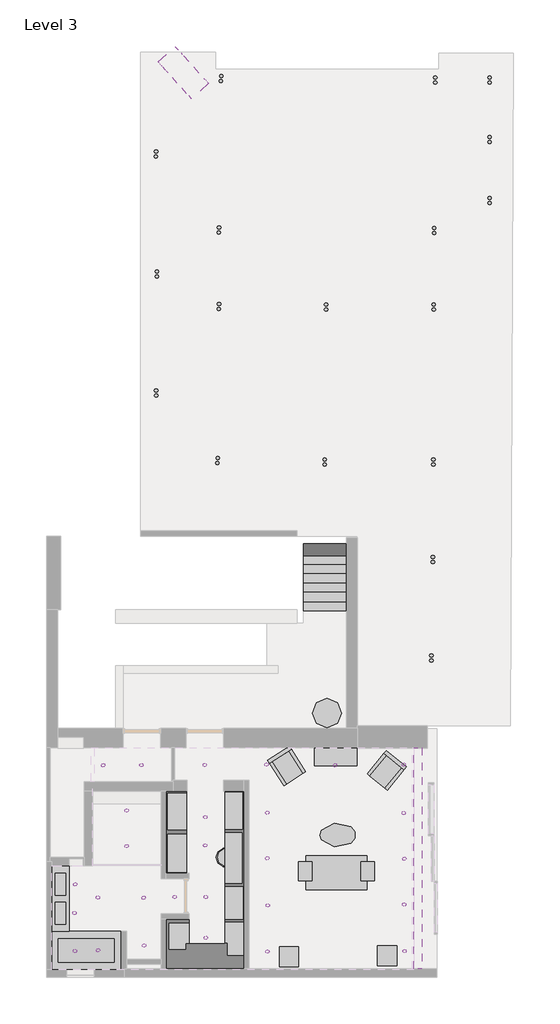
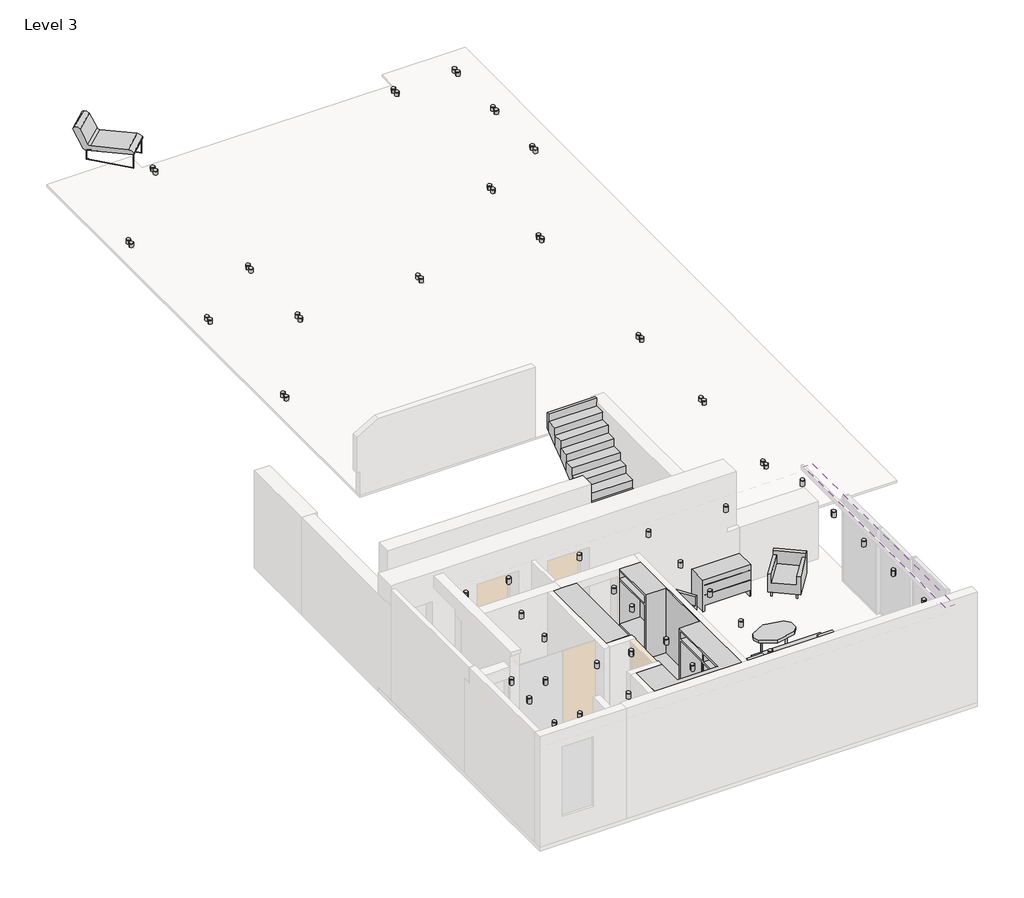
# One storey, part 3 of 3: 64 light fixtures, 12 furniture elements, 2 flow terminals, 1 covering, 1 stair flight.
"""IFC4 building model written with IfcOpenShell, lengths in millimetres."""

from ifc_helpers import new_model, si_unit, frame, origin, place, context, project, spatial, polyline, outline, extrude, faceted_brep, transform, mapped, element, save
from components import bathtub_04_bathtub_04_b9b0860f, sink_01_sink_01_286b0f5a, cabinet_2_cabinet_01_d2b5b7ef, chair_1_chair_01_665c74fe, chair_2_chair_05_0295ca72, furniture_2_furniture_2_741ce5a0, furniture_01_furniture_01_b6a23fa5, seating_01_seating_01_b9a82e03, table_2_table_01_8b4bd145, table_3_table_01_8c0383ce, wardrobe_01_wardrobe_01_081bacbf, wardrobe_02_wardrobe_02_01fa3c25, downlight_01_standard_4b9499b6

model = new_model("IFC4")

# Units and contexts
model_context = context("Model", 3, world=origin())
ifc_project = project(units=[si_unit("LENGTHUNIT", "METRE", prefix="MILLI")], contexts=[model_context])

# Site, building, storey
site = spatial("IfcSite", under=ifc_project)
building = spatial("IfcBuilding", under=site)
storey = spatial("IfcBuildingStorey", under=building, Name="Level 3", Elevation=6510.0)

# Covering
placement = place(None, origin())
element("IfcCovering", 1, ObjectType="Ceiling", at=placement, inside=storey, context=model_context, shape_type="SweptSolid", body=[
    extrude(outline(polyline([(2136.8850026, 4825.4417732), (2349.4980081, 4825.4417732), (2349.4980081, -1181.1735117), (2136.8850026, -1181.1735117), (2136.8850026, 4825.4417732)])), frame((0.0, 0.0, 9015.0), z_axis=(0.0, 0.0, 1.0), x_axis=(1.0, 0.0, 0.0)), (0.0, 0.0, 1.0), 50.0),
])

# Flow terminals
bathtub_04_bathtub_04_shape = bathtub_04_bathtub_04_b9b0860f(model_context)
element("IfcFlowTerminal", 2, ObjectType="Bathtub_04 : Bathtub_04", at=placement, inside=storey, context=model_context, shape_type="MappedRepresentation", body=[
    mapped(bathtub_04_bathtub_04_shape, transform((0.0, 0.0, 0.0), x_axis=(1.0, 0.0, 0.0), y_axis=(0.0, 1.0, 0.0), z_axis=(0.0, 0.0, 1.0))),
])
sink_01_sink_01_shape = sink_01_sink_01_286b0f5a(model_context)
element("IfcFlowTerminal", 3, ObjectType="Sink_01 : Sink_01", at=placement, inside=storey, context=model_context, shape_type="MappedRepresentation", body=[
    mapped(sink_01_sink_01_shape, transform((0.0, 0.0, 0.0), x_axis=(1.0, 0.0, 0.0), y_axis=(0.0, 1.0, 0.0), z_axis=(0.0, 0.0, 1.0))),
])

# Furniture
cabinet_2_cabinet_01_shape = cabinet_2_cabinet_01_d2b5b7ef(model_context)
element("IfcFurniture", 4, ObjectType="Cabinet_2 : Cabinet_01", at=placement, inside=storey, context=model_context, shape_type="MappedRepresentation", body=[
    mapped(cabinet_2_cabinet_01_shape, transform((0.0, 0.0, 0.0), x_axis=(1.0, 0.0, 0.0), y_axis=(0.0, 1.0, 0.0), z_axis=(0.0, 0.0, 1.0))),
])
chair_1_chair_01_shape = chair_1_chair_01_665c74fe(model_context)
element("IfcFurniture", 5, ObjectType="Chair_1 : Chair_01", at=placement, inside=storey, context=model_context, shape_type="MappedRepresentation", body=[
    mapped(chair_1_chair_01_shape, transform((1101.8331673, 3925.0498842, 6510.0), x_axis=(0.6293203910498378, 0.7771459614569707, 0.0), y_axis=(-0.7771459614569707, 0.6293203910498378, 0.0), z_axis=(0.0, 0.0, 1.0))),
])
element("IfcFurniture", 6, ObjectType="Chair_1 : Chair_01", at=placement, inside=storey, context=model_context, shape_type="MappedRepresentation", body=[
    mapped(chair_1_chair_01_shape, transform((-1151.1158015, 3967.6138941, 6510.0), x_axis=(-0.5410060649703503, 0.8410186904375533, 0.0), y_axis=(-0.8410186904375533, -0.5410060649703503, 0.0), z_axis=(0.0, 0.0, 1.0))),
])
chair_2_chair_05_shape = chair_2_chair_05_0295ca72(model_context)
element("IfcFurniture", 7, ObjectType="Chair_2 : Chair_05", at=placement, inside=storey, context=model_context, shape_type="MappedRepresentation", body=[
    mapped(chair_2_chair_05_shape, transform((0.0, 0.0, 0.0), x_axis=(1.0, 0.0, 0.0), y_axis=(0.0, 1.0, 0.0), z_axis=(0.0, 0.0, 1.0))),
])
furniture_2_furniture_2_shape = furniture_2_furniture_2_741ce5a0(model_context)
element("IfcFurniture", 8, ObjectType="Furniture 2 : Furniture 2", at=placement, inside=storey, context=model_context, shape_type="MappedRepresentation", body=[
    mapped(furniture_2_furniture_2_shape, transform((0.0, 0.0, 0.0), x_axis=(1.0, 0.0, 0.0), y_axis=(0.0, 1.0, 0.0), z_axis=(0.0, 0.0, 1.0))),
])
furniture_01_furniture_01_shape = furniture_01_furniture_01_b6a23fa5(model_context)
element("IfcFurniture", 9, ObjectType="Furniture_01 : Furniture_01", at=placement, inside=storey, context=model_context, shape_type="MappedRepresentation", body=[
    mapped(furniture_01_furniture_01_shape, transform((0.0, 0.0, 0.0), x_axis=(1.0, 0.0, 0.0), y_axis=(0.0, 1.0, 0.0), z_axis=(0.0, 0.0, 1.0))),
])
element("IfcFurniture", 10, ObjectType="Furniture_1 : Furniture_01", at=placement, inside=storey, context=model_context, shape_type="MappedRepresentation", body=[
    mapped(furniture_01_furniture_01_shape, transform((-2680.0, -30.0, 0.0), x_axis=(1.0, 0.0, 0.0), y_axis=(0.0, 1.0, 0.0), z_axis=(0.0, 0.0, 1.0))),
])
seating_01_seating_01_shape = seating_01_seating_01_b9a82e03(model_context)
element("IfcFurniture", 11, ObjectType="Seating_01 : Seating_01", at=placement, inside=storey, context=model_context, shape_type="MappedRepresentation", body=[
    mapped(seating_01_seating_01_shape, transform((0.0, 0.0, 0.0), x_axis=(1.0, 0.0, 0.0), y_axis=(0.0, 1.0, 0.0), z_axis=(0.0, 0.0, 1.0))),
])
table_2_table_01_shape = table_2_table_01_8b4bd145(model_context)
element("IfcFurniture", 12, ObjectType="Table_2 : Table_01", at=placement, inside=storey, context=model_context, shape_type="MappedRepresentation", body=[
    mapped(table_2_table_01_shape, transform((0.0, 0.0, 0.0), x_axis=(1.0, 0.0, 0.0), y_axis=(0.0, 1.0, 0.0), z_axis=(0.0, 0.0, 1.0))),
])
table_3_table_01_shape = table_3_table_01_8c0383ce(model_context)
element("IfcFurniture", 13, ObjectType="Table_3 : Table_01", at=placement, inside=storey, context=model_context, shape_type="MappedRepresentation", body=[
    mapped(table_3_table_01_shape, transform((0.0, 0.0, 0.0), x_axis=(1.0, 0.0, 0.0), y_axis=(0.0, 1.0, 0.0), z_axis=(0.0, 0.0, 1.0))),
])
wardrobe_01_wardrobe_01_shape = wardrobe_01_wardrobe_01_081bacbf(model_context)
element("IfcFurniture", 14, ObjectType="Wardrobe_01 : Wardrobe_01", at=placement, inside=storey, context=model_context, shape_type="MappedRepresentation", body=[
    mapped(wardrobe_01_wardrobe_01_shape, transform((0.0, 0.0, 0.0), x_axis=(1.0, 0.0, 0.0), y_axis=(0.0, 1.0, 0.0), z_axis=(0.0, 0.0, 1.0))),
])
wardrobe_02_wardrobe_02_shape = wardrobe_02_wardrobe_02_01fa3c25(model_context)
element("IfcFurniture", 15, ObjectType="Wardrobe_02 : Wardrobe_02", at=placement, inside=storey, context=model_context, shape_type="MappedRepresentation", body=[
    mapped(wardrobe_02_wardrobe_02_shape, transform((0.0, 0.0, 0.0), x_axis=(1.0, 0.0, 0.0), y_axis=(0.0, 1.0, 0.0), z_axis=(0.0, 0.0, 1.0))),
])

# Light fixtures
downlight_01_standard_shape = downlight_01_standard_4b9499b6(model_context)
element("IfcLightFixture", 16, ObjectType="Downlight _01 : Standard", at=placement, inside=storey, context=model_context, shape_type="MappedRepresentation", body=[
    mapped(downlight_01_standard_shape, transform((-3224.1942338, 12580.4333824, 4886.6), x_axis=(1.0, 0.0, 0.0), y_axis=(0.0, 1.0, 0.0), z_axis=(0.0, 0.0, 1.0))),
])
element("IfcLightFixture", 17, ObjectType="Downlight _01 : Standard", at=placement, inside=storey, context=model_context, shape_type="MappedRepresentation", body=[
    mapped(downlight_01_standard_shape, transform((-3214.4590029, 12716.7266151, 4886.6), x_axis=(1.0, 0.0, 0.0), y_axis=(0.0, 1.0, 0.0), z_axis=(0.0, 0.0, 1.0))),
])
element("IfcLightFixture", 18, ObjectType="Downlight _01 : Standard", at=placement, inside=storey, context=model_context, shape_type="MappedRepresentation", body=[
    mapped(downlight_01_standard_shape, transform((-3188.0817045, 16780.2766349, 4886.6), x_axis=(1.0, 0.0, 0.0), y_axis=(0.0, 1.0, 0.0), z_axis=(0.0, 0.0, 1.0))),
])
element("IfcLightFixture", 19, ObjectType="Downlight _01 : Standard", at=placement, inside=storey, context=model_context, shape_type="MappedRepresentation", body=[
    mapped(downlight_01_standard_shape, transform((-3178.3464736, 16916.5698676, 4886.6), x_axis=(1.0, 0.0, 0.0), y_axis=(0.0, 1.0, 0.0), z_axis=(0.0, 0.0, 1.0))),
])
element("IfcLightFixture", 20, ObjectType="Downlight _01 : Standard", at=placement, inside=storey, context=model_context, shape_type="MappedRepresentation", body=[
    mapped(downlight_01_standard_shape, transform((-3188.0817045, 18860.2766349, 4886.6), x_axis=(1.0, 0.0, 0.0), y_axis=(0.0, 1.0, 0.0), z_axis=(0.0, 0.0, 1.0))),
])
element("IfcLightFixture", 21, ObjectType="Downlight _01 : Standard", at=placement, inside=storey, context=model_context, shape_type="MappedRepresentation", body=[
    mapped(downlight_01_standard_shape, transform((-3178.3464736, 18996.5698676, 4886.6), x_axis=(1.0, 0.0, 0.0), y_axis=(0.0, 1.0, 0.0), z_axis=(0.0, 0.0, 1.0))),
])
element("IfcLightFixture", 22, ObjectType="Downlight _01 : Standard", at=placement, inside=storey, context=model_context, shape_type="MappedRepresentation", body=[
    mapped(downlight_01_standard_shape, transform((-3128.0817045, 22980.2766349, 4886.6), x_axis=(1.0, 0.0, 0.0), y_axis=(0.0, 1.0, 0.0), z_axis=(0.0, 0.0, 1.0))),
])
element("IfcLightFixture", 23, ObjectType="Downlight _01 : Standard", at=placement, inside=storey, context=model_context, shape_type="MappedRepresentation", body=[
    mapped(downlight_01_standard_shape, transform((-3118.3464736, 23116.5698676, 4886.6), x_axis=(1.0, 0.0, 0.0), y_axis=(0.0, 1.0, 0.0), z_axis=(0.0, 0.0, 1.0))),
])
element("IfcLightFixture", 24, ObjectType="Downlight _01 : Standard", at=placement, inside=storey, context=model_context, shape_type="MappedRepresentation", body=[
    mapped(downlight_01_standard_shape, transform((-4902.2467604, 20931.982539, 4886.6), x_axis=(1.0, 0.0, 0.0), y_axis=(0.0, 1.0, 0.0), z_axis=(0.0, 0.0, 1.0))),
])
element("IfcLightFixture", 25, ObjectType="Downlight _01 : Standard", at=placement, inside=storey, context=model_context, shape_type="MappedRepresentation", body=[
    mapped(downlight_01_standard_shape, transform((-4892.5115294, 21068.2757716, 4886.6), x_axis=(1.0, 0.0, 0.0), y_axis=(0.0, 1.0, 0.0), z_axis=(0.0, 0.0, 1.0))),
])
element("IfcLightFixture", 26, ObjectType="Downlight _01 : Standard", at=placement, inside=storey, context=model_context, shape_type="MappedRepresentation", body=[
    mapped(downlight_01_standard_shape, transform((-4872.2467604, 17661.982539, 4886.6), x_axis=(1.0, 0.0, 0.0), y_axis=(0.0, 1.0, 0.0), z_axis=(0.0, 0.0, 1.0))),
])
element("IfcLightFixture", 27, ObjectType="Downlight _01 : Standard", at=placement, inside=storey, context=model_context, shape_type="MappedRepresentation", body=[
    mapped(downlight_01_standard_shape, transform((-4872.5115294, 17798.2757716, 4886.6), x_axis=(1.0, 0.0, 0.0), y_axis=(0.0, 1.0, 0.0), z_axis=(0.0, 0.0, 1.0))),
])
element("IfcLightFixture", 28, ObjectType="Downlight _01 : Standard", at=placement, inside=storey, context=model_context, shape_type="MappedRepresentation", body=[
    mapped(downlight_01_standard_shape, transform((-4892.2467604, 14421.982539, 4886.6), x_axis=(1.0, 0.0, 0.0), y_axis=(0.0, 1.0, 0.0), z_axis=(0.0, 0.0, 1.0))),
])
element("IfcLightFixture", 29, ObjectType="Downlight _01 : Standard", at=placement, inside=storey, context=model_context, shape_type="MappedRepresentation", body=[
    mapped(downlight_01_standard_shape, transform((-4892.5115294, 14558.2757716, 4886.6), x_axis=(1.0, 0.0, 0.0), y_axis=(0.0, 1.0, 0.0), z_axis=(0.0, 0.0, 1.0))),
])
element("IfcLightFixture", 30, ObjectType="Downlight _01 : Standard", at=placement, inside=storey, context=model_context, shape_type="MappedRepresentation", body=[
    mapped(downlight_01_standard_shape, transform((-303.3628814, 12539.5853868, 4886.6), x_axis=(1.0, 0.0, 0.0), y_axis=(0.0, 1.0, 0.0), z_axis=(0.0, 0.0, 1.0))),
])
element("IfcLightFixture", 31, ObjectType="Downlight _01 : Standard", at=placement, inside=storey, context=model_context, shape_type="MappedRepresentation", body=[
    mapped(downlight_01_standard_shape, transform((-303.6276505, 12675.8786195, 4886.6), x_axis=(1.0, 0.0, 0.0), y_axis=(0.0, 1.0, 0.0), z_axis=(0.0, 0.0, 1.0))),
])
element("IfcLightFixture", 32, ObjectType="Downlight _01 : Standard", at=placement, inside=storey, context=model_context, shape_type="MappedRepresentation", body=[
    mapped(downlight_01_standard_shape, transform((-263.3628814, 16759.5853868, 4886.6), x_axis=(1.0, 0.0, 0.0), y_axis=(0.0, 1.0, 0.0), z_axis=(0.0, 0.0, 1.0))),
])
element("IfcLightFixture", 33, ObjectType="Downlight _01 : Standard", at=placement, inside=storey, context=model_context, shape_type="MappedRepresentation", body=[
    mapped(downlight_01_standard_shape, transform((-263.6276505, 16895.8786195, 4886.6), x_axis=(1.0, 0.0, 0.0), y_axis=(0.0, 1.0, 0.0), z_axis=(0.0, 0.0, 1.0))),
])
element("IfcLightFixture", 34, ObjectType="Downlight _01 : Standard", at=placement, inside=storey, context=model_context, shape_type="MappedRepresentation", body=[
    mapped(downlight_01_standard_shape, transform((2713.7771246, 22939.8958471, 4886.6), x_axis=(1.0, 0.0, 0.0), y_axis=(0.0, 1.0, 0.0), z_axis=(0.0, 0.0, 1.0))),
])
element("IfcLightFixture", 35, ObjectType="Downlight _01 : Standard", at=placement, inside=storey, context=model_context, shape_type="MappedRepresentation", body=[
    mapped(downlight_01_standard_shape, transform((2713.5123555, 23076.1890797, 4886.6), x_axis=(1.0, 0.0, 0.0), y_axis=(0.0, 1.0, 0.0), z_axis=(0.0, 0.0, 1.0))),
])
element("IfcLightFixture", 36, ObjectType="Downlight _01 : Standard", at=placement, inside=storey, context=model_context, shape_type="MappedRepresentation", body=[
    mapped(downlight_01_standard_shape, transform((4193.7771246, 22939.8958471, 4886.6), x_axis=(1.0, 0.0, 0.0), y_axis=(0.0, 1.0, 0.0), z_axis=(0.0, 0.0, 1.0))),
])
element("IfcLightFixture", 37, ObjectType="Downlight _01 : Standard", at=placement, inside=storey, context=model_context, shape_type="MappedRepresentation", body=[
    mapped(downlight_01_standard_shape, transform((4193.5123555, 23076.1890797, 4886.6), x_axis=(1.0, 0.0, 0.0), y_axis=(0.0, 1.0, 0.0), z_axis=(0.0, 0.0, 1.0))),
])
element("IfcLightFixture", 38, ObjectType="Downlight _01 : Standard", at=placement, inside=storey, context=model_context, shape_type="MappedRepresentation", body=[
    mapped(downlight_01_standard_shape, transform((4193.7771246, 21319.8958471, 4886.6), x_axis=(1.0, 0.0, 0.0), y_axis=(0.0, 1.0, 0.0), z_axis=(0.0, 0.0, 1.0))),
])
element("IfcLightFixture", 39, ObjectType="Downlight _01 : Standard", at=placement, inside=storey, context=model_context, shape_type="MappedRepresentation", body=[
    mapped(downlight_01_standard_shape, transform((4193.5123555, 21456.1890797, 4886.6), x_axis=(1.0, 0.0, 0.0), y_axis=(0.0, 1.0, 0.0), z_axis=(0.0, 0.0, 1.0))),
])
element("IfcLightFixture", 40, ObjectType="Downlight _01 : Standard", at=placement, inside=storey, context=model_context, shape_type="MappedRepresentation", body=[
    mapped(downlight_01_standard_shape, transform((4193.7771246, 19664.8958471, 4886.6), x_axis=(1.0, 0.0, 0.0), y_axis=(0.0, 1.0, 0.0), z_axis=(0.0, 0.0, 1.0))),
])
element("IfcLightFixture", 41, ObjectType="Downlight _01 : Standard", at=placement, inside=storey, context=model_context, shape_type="MappedRepresentation", body=[
    mapped(downlight_01_standard_shape, transform((4193.5123555, 19801.1890797, 4886.6), x_axis=(1.0, 0.0, 0.0), y_axis=(0.0, 1.0, 0.0), z_axis=(0.0, 0.0, 1.0))),
])
element("IfcLightFixture", 42, ObjectType="Downlight _01 : Standard", at=placement, inside=storey, context=model_context, shape_type="MappedRepresentation", body=[
    mapped(downlight_01_standard_shape, transform((2682.4541124, 18843.7364516, 4886.6), x_axis=(1.0, 0.0, 0.0), y_axis=(0.0, 1.0, 0.0), z_axis=(0.0, 0.0, 1.0))),
])
element("IfcLightFixture", 43, ObjectType="Downlight _01 : Standard", at=placement, inside=storey, context=model_context, shape_type="MappedRepresentation", body=[
    mapped(downlight_01_standard_shape, transform((2682.1893433, 18980.0296842, 4886.6), x_axis=(1.0, 0.0, 0.0), y_axis=(0.0, 1.0, 0.0), z_axis=(0.0, 0.0, 1.0))),
])
element("IfcLightFixture", 44, ObjectType="Downlight _01 : Standard", at=placement, inside=storey, context=model_context, shape_type="MappedRepresentation", body=[
    mapped(downlight_01_standard_shape, transform((2672.4541124, 16763.7364516, 4886.6), x_axis=(1.0, 0.0, 0.0), y_axis=(0.0, 1.0, 0.0), z_axis=(0.0, 0.0, 1.0))),
])
element("IfcLightFixture", 45, ObjectType="Downlight _01 : Standard", at=placement, inside=storey, context=model_context, shape_type="MappedRepresentation", body=[
    mapped(downlight_01_standard_shape, transform((2672.1893433, 16900.0296842, 4886.6), x_axis=(1.0, 0.0, 0.0), y_axis=(0.0, 1.0, 0.0), z_axis=(0.0, 0.0, 1.0))),
])
element("IfcLightFixture", 46, ObjectType="Downlight _01 : Standard", at=placement, inside=storey, context=model_context, shape_type="MappedRepresentation", body=[
    mapped(downlight_01_standard_shape, transform((2662.4541124, 12543.7364516, 4886.6), x_axis=(1.0, 0.0, 0.0), y_axis=(0.0, 1.0, 0.0), z_axis=(0.0, 0.0, 1.0))),
])
element("IfcLightFixture", 47, ObjectType="Downlight _01 : Standard", at=placement, inside=storey, context=model_context, shape_type="MappedRepresentation", body=[
    mapped(downlight_01_standard_shape, transform((2662.1893433, 12680.0296842, 4886.6), x_axis=(1.0, 0.0, 0.0), y_axis=(0.0, 1.0, 0.0), z_axis=(0.0, 0.0, 1.0))),
])
element("IfcLightFixture", 48, ObjectType="Downlight _01 : Standard", at=placement, inside=storey, context=model_context, shape_type="MappedRepresentation", body=[
    mapped(downlight_01_standard_shape, transform((2647.4541124, 9888.7364516, 4886.6), x_axis=(1.0, 0.0, 0.0), y_axis=(0.0, 1.0, 0.0), z_axis=(0.0, 0.0, 1.0))),
])
element("IfcLightFixture", 49, ObjectType="Downlight _01 : Standard", at=placement, inside=storey, context=model_context, shape_type="MappedRepresentation", body=[
    mapped(downlight_01_standard_shape, transform((2647.1893433, 10025.0296842, 4886.6), x_axis=(1.0, 0.0, 0.0), y_axis=(0.0, 1.0, 0.0), z_axis=(0.0, 0.0, 1.0))),
])
element("IfcLightFixture", 50, ObjectType="Downlight _01 : Standard", at=placement, inside=storey, context=model_context, shape_type="MappedRepresentation", body=[
    mapped(downlight_01_standard_shape, transform((2607.4541124, 7208.7364516, 4886.6), x_axis=(1.0, 0.0, 0.0), y_axis=(0.0, 1.0, 0.0), z_axis=(0.0, 0.0, 1.0))),
])
element("IfcLightFixture", 51, ObjectType="Downlight _01 : Standard", at=placement, inside=storey, context=model_context, shape_type="MappedRepresentation", body=[
    mapped(downlight_01_standard_shape, transform((2607.1893433, 7345.0296842, 4886.6), x_axis=(1.0, 0.0, 0.0), y_axis=(0.0, 1.0, 0.0), z_axis=(0.0, 0.0, 1.0))),
])
element("IfcLightFixture", 52, ObjectType="Downlight _01 : Standard", at=placement, inside=storey, context=model_context, shape_type="MappedRepresentation", body=[
    mapped(downlight_01_standard_shape, transform((1854.4980081, 4375.5198069, 6461.6), x_axis=(1.0, 0.0, 0.0), y_axis=(0.0, 1.0, 0.0), z_axis=(0.0, 0.0, 1.0))),
])
element("IfcLightFixture", 53, ObjectType="Downlight _01 : Standard", at=placement, inside=storey, context=model_context, shape_type="MappedRepresentation", body=[
    mapped(downlight_01_standard_shape, transform((1854.4980081, 3055.5198069, 6461.6), x_axis=(1.0, 0.0, 0.0), y_axis=(0.0, 1.0, 0.0), z_axis=(0.0, 0.0, 1.0))),
])
element("IfcLightFixture", 54, ObjectType="Downlight _01 : Standard", at=placement, inside=storey, context=model_context, shape_type="MappedRepresentation", body=[
    mapped(downlight_01_standard_shape, transform((1869.4980081, 1810.5198069, 6461.6), x_axis=(1.0, 0.0, 0.0), y_axis=(0.0, 1.0, 0.0), z_axis=(0.0, 0.0, 1.0))),
])
element("IfcLightFixture", 55, ObjectType="Downlight _01 : Standard", at=placement, inside=storey, context=model_context, shape_type="MappedRepresentation", body=[
    mapped(downlight_01_standard_shape, transform((1864.4980081, 565.5198069, 6461.6), x_axis=(1.0, 0.0, 0.0), y_axis=(0.0, 1.0, 0.0), z_axis=(0.0, 0.0, 1.0))),
])
element("IfcLightFixture", 56, ObjectType="Downlight _01 : Standard", at=placement, inside=storey, context=model_context, shape_type="MappedRepresentation", body=[
    mapped(downlight_01_standard_shape, transform((1874.4980081, -704.4801931, 6461.6), x_axis=(1.0, 0.0, 0.0), y_axis=(0.0, 1.0, 0.0), z_axis=(0.0, 0.0, 1.0))),
])
element("IfcLightFixture", 57, ObjectType="Downlight _01 : Standard", at=placement, inside=storey, context=model_context, shape_type="MappedRepresentation", body=[
    mapped(downlight_01_standard_shape, transform((-15.9288364, 4355.5198069, 6461.6), x_axis=(1.0, 0.0, 0.0), y_axis=(0.0, 1.0, 0.0), z_axis=(0.0, 0.0, 1.0))),
])
element("IfcLightFixture", 58, ObjectType="Downlight _01 : Standard", at=placement, inside=storey, context=model_context, shape_type="MappedRepresentation", body=[
    mapped(downlight_01_standard_shape, transform((-1885.5019919, 4375.5198069, 6461.6), x_axis=(1.0, 0.0, 0.0), y_axis=(0.0, 1.0, 0.0), z_axis=(0.0, 0.0, 1.0))),
])
element("IfcLightFixture", 59, ObjectType="Downlight _01 : Standard", at=placement, inside=storey, context=model_context, shape_type="MappedRepresentation", body=[
    mapped(downlight_01_standard_shape, transform((-1865.5019919, 3063.8264883, 6461.6), x_axis=(1.0, 0.0, 0.0), y_axis=(0.0, 1.0, 0.0), z_axis=(0.0, 0.0, 1.0))),
])
element("IfcLightFixture", 60, ObjectType="Downlight _01 : Standard", at=placement, inside=storey, context=model_context, shape_type="MappedRepresentation", body=[
    mapped(downlight_01_standard_shape, transform((-1865.5019919, 1823.8264883, 6461.6), x_axis=(1.0, 0.0, 0.0), y_axis=(0.0, 1.0, 0.0), z_axis=(0.0, 0.0, 1.0))),
])
element("IfcLightFixture", 61, ObjectType="Downlight _01 : Standard", at=placement, inside=storey, context=model_context, shape_type="MappedRepresentation", body=[
    mapped(downlight_01_standard_shape, transform((-1850.5019919, 541.203259, 6461.6), x_axis=(1.0, 0.0, 0.0), y_axis=(0.0, 1.0, 0.0), z_axis=(0.0, 0.0, 1.0))),
])
element("IfcLightFixture", 62, ObjectType="Downlight _01 : Standard", at=placement, inside=storey, context=model_context, shape_type="MappedRepresentation", body=[
    mapped(downlight_01_standard_shape, transform((-1860.5019919, -716.1735117, 6461.6), x_axis=(1.0, 0.0, 0.0), y_axis=(0.0, 1.0, 0.0), z_axis=(0.0, 0.0, 1.0))),
])
element("IfcLightFixture", 63, ObjectType="Downlight _01 : Standard", at=placement, inside=storey, context=model_context, shape_type="MappedRepresentation", body=[
    mapped(downlight_01_standard_shape, transform((-3570.7190497, 4363.8264883, 6461.6), x_axis=(1.0, 0.0, 0.0), y_axis=(0.0, 1.0, 0.0), z_axis=(0.0, 0.0, 1.0))),
])
element("IfcLightFixture", 64, ObjectType="Downlight _01 : Standard", at=placement, inside=storey, context=model_context, shape_type="MappedRepresentation", body=[
    mapped(downlight_01_standard_shape, transform((-3553.0019919, 2943.8264883, 6461.6), x_axis=(1.0, 0.0, 0.0), y_axis=(0.0, 1.0, 0.0), z_axis=(0.0, 0.0, 1.0))),
])
element("IfcLightFixture", 65, ObjectType="Downlight _01 : Standard", at=placement, inside=storey, context=model_context, shape_type="MappedRepresentation", body=[
    mapped(downlight_01_standard_shape, transform((-3558.0019919, 2173.8264883, 6461.6), x_axis=(1.0, 0.0, 0.0), y_axis=(0.0, 1.0, 0.0), z_axis=(0.0, 0.0, 1.0))),
])
element("IfcLightFixture", 66, ObjectType="Downlight _01 : Standard", at=placement, inside=storey, context=model_context, shape_type="MappedRepresentation", body=[
    mapped(downlight_01_standard_shape, transform((-3538.0019919, 767.224799, 6461.6), x_axis=(1.0, 0.0, 0.0), y_axis=(0.0, 1.0, 0.0), z_axis=(0.0, 0.0, 1.0))),
])
element("IfcLightFixture", 67, ObjectType="Downlight _01 : Standard", at=placement, inside=storey, context=model_context, shape_type="MappedRepresentation", body=[
    mapped(downlight_01_standard_shape, transform((-3538.0019919, -342.775201, 6461.6), x_axis=(1.0, 0.0, 0.0), y_axis=(0.0, 1.0, 0.0), z_axis=(0.0, 0.0, 1.0))),
])
element("IfcLightFixture", 68, ObjectType="Downlight _01 : Standard", at=placement, inside=storey, context=model_context, shape_type="MappedRepresentation", body=[
    mapped(downlight_01_standard_shape, transform((-4388.0019919, 767.224799, 6461.6), x_axis=(1.0, 0.0, 0.0), y_axis=(0.0, 1.0, 0.0), z_axis=(0.0, 0.0, 1.0))),
])
element("IfcLightFixture", 69, ObjectType="Downlight _01 : Standard", at=placement, inside=storey, context=model_context, shape_type="MappedRepresentation", body=[
    mapped(downlight_01_standard_shape, transform((-5234.6139704, 747.224799, 6461.6), x_axis=(1.0, 0.0, 0.0), y_axis=(0.0, 1.0, 0.0), z_axis=(0.0, 0.0, 1.0))),
])
element("IfcLightFixture", 70, ObjectType="Downlight _01 : Standard", at=placement, inside=storey, context=model_context, shape_type="MappedRepresentation", body=[
    mapped(downlight_01_standard_shape, transform((-5698.0019919, 3123.8264883, 6461.6), x_axis=(1.0, 0.0, 0.0), y_axis=(0.0, 1.0, 0.0), z_axis=(0.0, 0.0, 1.0))),
])
element("IfcLightFixture", 71, ObjectType="Downlight _01 : Standard", at=placement, inside=storey, context=model_context, shape_type="MappedRepresentation", body=[
    mapped(downlight_01_standard_shape, transform((-5698.0019919, 2153.8264883, 6461.6), x_axis=(1.0, 0.0, 0.0), y_axis=(0.0, 1.0, 0.0), z_axis=(0.0, 0.0, 1.0))),
])
element("IfcLightFixture", 72, ObjectType="Downlight _01 : Standard", at=placement, inside=storey, context=model_context, shape_type="MappedRepresentation", body=[
    mapped(downlight_01_standard_shape, transform((-6478.0019919, 753.8264883, 6461.6), x_axis=(1.0, 0.0, 0.0), y_axis=(0.0, 1.0, 0.0), z_axis=(0.0, 0.0, 1.0))),
])
element("IfcLightFixture", 73, ObjectType="Downlight _01 : Standard", at=placement, inside=storey, context=model_context, shape_type="MappedRepresentation", body=[
    mapped(downlight_01_standard_shape, transform((-6474.6139704, -681.1735117, 6461.6), x_axis=(1.0, 0.0, 0.0), y_axis=(0.0, 1.0, 0.0), z_axis=(0.0, 0.0, 1.0))),
])
element("IfcLightFixture", 74, ObjectType="Downlight _01 : Standard", at=placement, inside=storey, context=model_context, shape_type="MappedRepresentation", body=[
    mapped(downlight_01_standard_shape, transform((-7105.5019919, -701.1735117, 6461.6), x_axis=(1.0, 0.0, 0.0), y_axis=(0.0, 1.0, 0.0), z_axis=(0.0, 0.0, 1.0))),
])
element("IfcLightFixture", 75, ObjectType="Downlight _01 : Standard", at=placement, inside=storey, context=model_context, shape_type="MappedRepresentation", body=[
    mapped(downlight_01_standard_shape, transform((-7118.0019919, 333.8264883, 6461.6), x_axis=(1.0, 0.0, 0.0), y_axis=(0.0, 1.0, 0.0), z_axis=(0.0, 0.0, 1.0))),
])
element("IfcLightFixture", 76, ObjectType="Downlight _01 : Standard", at=placement, inside=storey, context=model_context, shape_type="MappedRepresentation", body=[
    mapped(downlight_01_standard_shape, transform((-7098.0019919, 1113.8264883, 6461.6), x_axis=(1.0, 0.0, 0.0), y_axis=(0.0, 1.0, 0.0), z_axis=(0.0, 0.0, 1.0))),
])
element("IfcLightFixture", 77, ObjectType="Downlight _01 : Standard", at=placement, inside=storey, context=model_context, shape_type="MappedRepresentation", body=[
    mapped(downlight_01_standard_shape, transform((-6338.0019919, 4355.5198069, 6461.6), x_axis=(1.0, 0.0, 0.0), y_axis=(0.0, 1.0, 0.0), z_axis=(0.0, 0.0, 1.0))),
])
element("IfcLightFixture", 78, ObjectType="Downlight _01 : Standard", at=placement, inside=storey, context=model_context, shape_type="MappedRepresentation", body=[
    mapped(downlight_01_standard_shape, transform((-5293.723725, 4358.8264883, 6461.6), x_axis=(1.0, 0.0, 0.0), y_axis=(0.0, 1.0, 0.0), z_axis=(0.0, 0.0, 1.0))),
])
element("IfcLightFixture", 79, ObjectType="Downlight _01 : Standard", at=placement, inside=storey, context=model_context, shape_type="MappedRepresentation", body=[
    mapped(downlight_01_standard_shape, transform((-5219.6139704, -552.775201, 6461.6), x_axis=(1.0, 0.0, 0.0), y_axis=(0.0, 1.0, 0.0), z_axis=(0.0, 0.0, 1.0))),
])

# Stair flight
element("IfcStairFlight", 80, ObjectType="150mm Depth 2", at=placement, inside=storey, context=model_context, shape_type="Brep", body=[
    faceted_brep([(-877.6989418, 8805.5978406, 6706.25), (-877.6989418, 8565.5978406, 6706.25), (286.4168364, 8565.5978406, 6706.25), (286.4168364, 8805.5978406, 6706.25), (-877.6989418, 8805.5978406, 6510.0), (-877.6989418, 8565.5978406, 6510.0), (286.4168364, 8565.5978406, 6510.0), (286.4168364, 8805.5978406, 6510.0), (-877.6989418, 9085.5978406, 6902.5), (-877.6989418, 8805.5978406, 6902.5), (286.4168364, 8805.5978406, 6902.5), (286.4168364, 9085.5978406, 6902.5), (-877.6989418, 9085.5978406, 6662.1688503), (-877.6989418, 8890.6444819, 6510.0), (286.4168364, 8890.6444819, 6510.0), (286.4168364, 9085.5978406, 6662.1688503), (-877.6989418, 9585.5978406, 7295.0), (-877.6989418, 9325.5978406, 7295.0), (286.4168364, 9325.5978406, 7295.0), (286.4168364, 9585.5978406, 7295.0), (-877.6989418, 9585.5978406, 7052.4387366), (-877.6989418, 9325.5978406, 6849.4983957), (-877.6989418, 9325.5978406, 7098.75), (286.4168364, 9325.5978406, 7098.75), (286.4168364, 9325.5978406, 6849.4983957), (286.4168364, 9585.5978406, 7052.4387366), (-877.6989418, 9825.5978406, 7491.25), (-877.6989418, 9585.5978406, 7491.25), (286.4168364, 9585.5978406, 7491.25), (286.4168364, 9825.5978406, 7491.25), (-877.6989418, 9825.5978406, 7239.7682821), (286.4168364, 9825.5978406, 7239.7682821), (-877.6989418, 10325.5978406, 7883.75), (-877.6989418, 10065.5978406, 7883.75), (286.4168364, 10065.5978406, 7883.75), (286.4168364, 10325.5978406, 7883.75), (-877.6989418, 10325.5978406, 7630.0381684), (-877.6989418, 10065.5978406, 7427.0978275), (-877.6989418, 10065.5978406, 7687.5), (286.4168364, 10065.5978406, 7687.5), (286.4168364, 10065.5978406, 7427.0978275), (286.4168364, 10325.5978406, 7630.0381684), (-877.6989418, 10385.5978406, 7676.8705548), (286.4168364, 10385.5978406, 7676.8705548), (-877.6989418, 9085.5978406, 7098.75), (286.4168364, 9085.5978406, 7098.75), (-877.6989418, 9825.5978406, 7687.5), (286.4168364, 9825.5978406, 7687.5), (-877.6989418, 10385.5978406, 8080.0), (-877.6989418, 10325.5978406, 8080.0), (286.4168364, 10325.5978406, 8080.0), (286.4168364, 10385.5978406, 8080.0)], [[[0, 1, 2, 3]], [[1, 0, 4, 5]], [[2, 1, 5, 6]], [[3, 2, 6, 7]], [[8, 9, 10, 11]], [[4, 0, 9, 8, 12, 13]], [[0, 3, 10, 9]], [[3, 7, 14, 15, 11, 10]], [[16, 17, 18, 19]], [[17, 16, 20, 21, 22]], [[22, 23, 18, 17]], [[19, 18, 23, 24, 25]], [[26, 27, 28, 29]], [[27, 26, 30, 20, 16]], [[16, 19, 28, 27]], [[29, 28, 19, 25, 31]], [[32, 33, 34, 35]], [[33, 32, 36, 37, 38]], [[38, 39, 34, 33]], [[35, 34, 39, 40, 41]], [[5, 4, 13, 14, 7, 6]], [[14, 13, 12, 21, 20, 30, 37, 36, 42, 43, 41, 40, 31, 25, 24, 15]], [[22, 44, 45, 23]], [[44, 22, 21, 12, 8]], [[8, 11, 45, 44]], [[23, 45, 11, 15, 24]], [[38, 46, 47, 39]], [[46, 38, 37, 30, 26]], [[26, 29, 47, 46]], [[39, 47, 29, 31, 40]], [[48, 49, 50, 51]], [[49, 48, 42, 36, 32]], [[32, 35, 50, 49]], [[51, 50, 35, 41, 43]], [[48, 51, 43, 42]]]),
])

save(model, "model.ifc")
